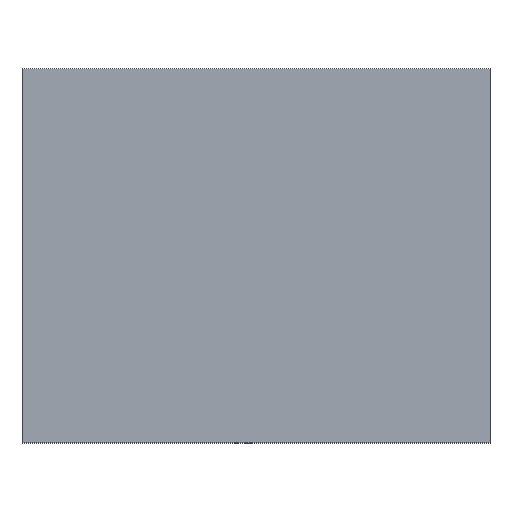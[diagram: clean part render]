
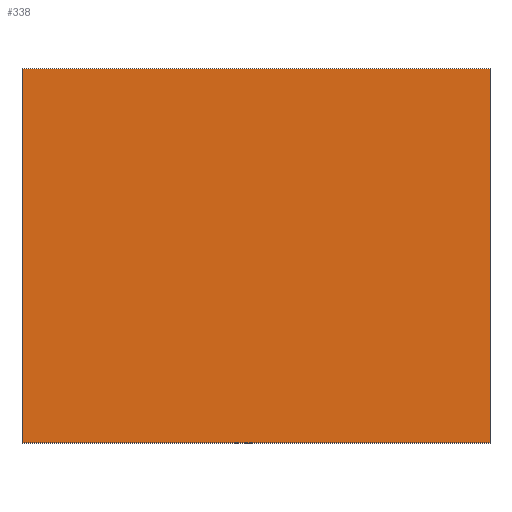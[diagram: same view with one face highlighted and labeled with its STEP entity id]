
A CAD part, top view. The second image highlights one B-rep face of the part: STEP entity #338.
In plain terms, the highlighted planar face has unit normal (0, 0, 1).
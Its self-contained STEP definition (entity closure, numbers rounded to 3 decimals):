
#24 = VERTEX_POINT('',#25);
#25 = CARTESIAN_POINT('',(0.,100.,63.5));
#32 = PLANE('',#33);
#33 = AXIS2_PLACEMENT_3D('',#34,#35,#36);
#34 = CARTESIAN_POINT('',(0.,100.,0.));
#35 = DIRECTION('',(0.,1.,0.));
#36 = DIRECTION('',(1.,0.,0.));
#44 = PLANE('',#45);
#45 = AXIS2_PLACEMENT_3D('',#46,#47,#48);
#46 = CARTESIAN_POINT('',(0.,0.,0.));
#47 = DIRECTION('',(-1.,0.,0.));
#48 = DIRECTION('',(0.,1.,0.));
#56 = EDGE_CURVE('',#24,#57,#59,.T.);
#57 = VERTEX_POINT('',#58);
#58 = CARTESIAN_POINT('',(125.,100.,63.5));
#59 = SURFACE_CURVE('',#60,(#64,#71),.PCURVE_S1.);
#60 = LINE('',#61,#62);
#61 = CARTESIAN_POINT('',(0.,100.,63.5));
#62 = VECTOR('',#63,1.);
#63 = DIRECTION('',(1.,0.,0.));
#64 = PCURVE('',#32,#65);
#65 = DEFINITIONAL_REPRESENTATION('',(#66),#70);
#66 = LINE('',#67,#68);
#67 = CARTESIAN_POINT('',(0.,-63.5));
#68 = VECTOR('',#69,1.);
#69 = DIRECTION('',(1.,0.));
#70 = ( GEOMETRIC_REPRESENTATION_CONTEXT(2) 
PARAMETRIC_REPRESENTATION_CONTEXT() REPRESENTATION_CONTEXT('2D SPACE',''
  ) );
#71 = PCURVE('',#72,#77);
#72 = PLANE('',#73);
#73 = AXIS2_PLACEMENT_3D('',#74,#75,#76);
#74 = CARTESIAN_POINT('',(62.5,50.,63.5));
#75 = DIRECTION('',(-0.,-0.,-1.));
#76 = DIRECTION('',(-1.,0.,0.));
#77 = DEFINITIONAL_REPRESENTATION('',(#78),#82);
#78 = LINE('',#79,#80);
#79 = CARTESIAN_POINT('',(62.5,50.));
#80 = VECTOR('',#81,1.);
#81 = DIRECTION('',(-1.,0.));
#82 = ( GEOMETRIC_REPRESENTATION_CONTEXT(2) 
PARAMETRIC_REPRESENTATION_CONTEXT() REPRESENTATION_CONTEXT('2D SPACE',''
  ) );
#100 = PLANE('',#101);
#101 = AXIS2_PLACEMENT_3D('',#102,#103,#104);
#102 = CARTESIAN_POINT('',(125.,100.,0.));
#103 = DIRECTION('',(1.,0.,0.));
#104 = DIRECTION('',(0.,-1.,0.));
#142 = EDGE_CURVE('',#57,#143,#145,.T.);
#143 = VERTEX_POINT('',#144);
#144 = CARTESIAN_POINT('',(125.,0.,63.5));
#145 = SURFACE_CURVE('',#146,(#150,#157),.PCURVE_S1.);
#146 = LINE('',#147,#148);
#147 = CARTESIAN_POINT('',(125.,100.,63.5));
#148 = VECTOR('',#149,1.);
#149 = DIRECTION('',(0.,-1.,0.));
#150 = PCURVE('',#100,#151);
#151 = DEFINITIONAL_REPRESENTATION('',(#152),#156);
#152 = LINE('',#153,#154);
#153 = CARTESIAN_POINT('',(0.,-63.5));
#154 = VECTOR('',#155,1.);
#155 = DIRECTION('',(1.,0.));
#156 = ( GEOMETRIC_REPRESENTATION_CONTEXT(2) 
PARAMETRIC_REPRESENTATION_CONTEXT() REPRESENTATION_CONTEXT('2D SPACE',''
  ) );
#157 = PCURVE('',#72,#158);
#158 = DEFINITIONAL_REPRESENTATION('',(#159),#163);
#159 = LINE('',#160,#161);
#160 = CARTESIAN_POINT('',(-62.5,50.));
#161 = VECTOR('',#162,1.);
#162 = DIRECTION('',(0.,-1.));
#163 = ( GEOMETRIC_REPRESENTATION_CONTEXT(2) 
PARAMETRIC_REPRESENTATION_CONTEXT() REPRESENTATION_CONTEXT('2D SPACE',''
  ) );
#181 = PLANE('',#182);
#182 = AXIS2_PLACEMENT_3D('',#183,#184,#185);
#183 = CARTESIAN_POINT('',(125.,0.,0.));
#184 = DIRECTION('',(0.,-1.,0.));
#185 = DIRECTION('',(-1.,0.,0.));
#218 = EDGE_CURVE('',#143,#219,#221,.T.);
#219 = VERTEX_POINT('',#220);
#220 = CARTESIAN_POINT('',(0.,0.,63.5));
#221 = SURFACE_CURVE('',#222,(#226,#233),.PCURVE_S1.);
#222 = LINE('',#223,#224);
#223 = CARTESIAN_POINT('',(125.,0.,63.5));
#224 = VECTOR('',#225,1.);
#225 = DIRECTION('',(-1.,0.,0.));
#226 = PCURVE('',#181,#227);
#227 = DEFINITIONAL_REPRESENTATION('',(#228),#232);
#228 = LINE('',#229,#230);
#229 = CARTESIAN_POINT('',(0.,-63.5));
#230 = VECTOR('',#231,1.);
#231 = DIRECTION('',(1.,0.));
#232 = ( GEOMETRIC_REPRESENTATION_CONTEXT(2) 
PARAMETRIC_REPRESENTATION_CONTEXT() REPRESENTATION_CONTEXT('2D SPACE',''
  ) );
#233 = PCURVE('',#72,#234);
#234 = DEFINITIONAL_REPRESENTATION('',(#235),#239);
#235 = LINE('',#236,#237);
#236 = CARTESIAN_POINT('',(-62.5,-50.));
#237 = VECTOR('',#238,1.);
#238 = DIRECTION('',(1.,0.));
#239 = ( GEOMETRIC_REPRESENTATION_CONTEXT(2) 
PARAMETRIC_REPRESENTATION_CONTEXT() REPRESENTATION_CONTEXT('2D SPACE',''
  ) );
#289 = EDGE_CURVE('',#219,#24,#290,.T.);
#290 = SURFACE_CURVE('',#291,(#295,#302),.PCURVE_S1.);
#291 = LINE('',#292,#293);
#292 = CARTESIAN_POINT('',(0.,0.,63.5));
#293 = VECTOR('',#294,1.);
#294 = DIRECTION('',(0.,1.,0.));
#295 = PCURVE('',#44,#296);
#296 = DEFINITIONAL_REPRESENTATION('',(#297),#301);
#297 = LINE('',#298,#299);
#298 = CARTESIAN_POINT('',(0.,-63.5));
#299 = VECTOR('',#300,1.);
#300 = DIRECTION('',(1.,0.));
#301 = ( GEOMETRIC_REPRESENTATION_CONTEXT(2) 
PARAMETRIC_REPRESENTATION_CONTEXT() REPRESENTATION_CONTEXT('2D SPACE',''
  ) );
#302 = PCURVE('',#72,#303);
#303 = DEFINITIONAL_REPRESENTATION('',(#304),#308);
#304 = LINE('',#305,#306);
#305 = CARTESIAN_POINT('',(62.5,-50.));
#306 = VECTOR('',#307,1.);
#307 = DIRECTION('',(0.,1.));
#308 = ( GEOMETRIC_REPRESENTATION_CONTEXT(2) 
PARAMETRIC_REPRESENTATION_CONTEXT() REPRESENTATION_CONTEXT('2D SPACE',''
  ) );
#338 = ADVANCED_FACE('',(#339),#72,.F.);
#339 = FACE_BOUND('',#340,.F.);
#340 = EDGE_LOOP('',(#341,#342,#343,#344));
#341 = ORIENTED_EDGE('',*,*,#56,.T.);
#342 = ORIENTED_EDGE('',*,*,#142,.T.);
#343 = ORIENTED_EDGE('',*,*,#218,.T.);
#344 = ORIENTED_EDGE('',*,*,#289,.T.);
